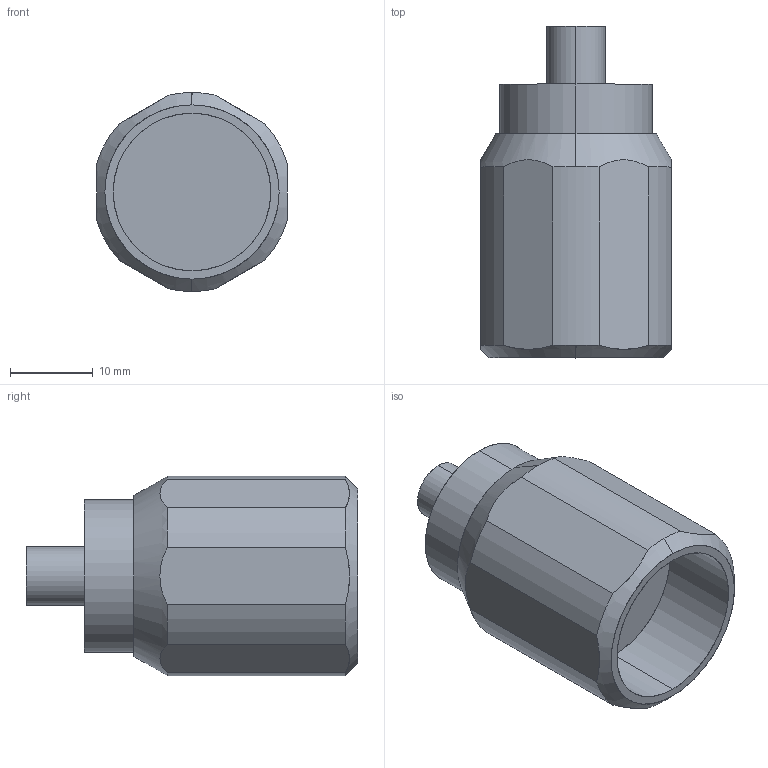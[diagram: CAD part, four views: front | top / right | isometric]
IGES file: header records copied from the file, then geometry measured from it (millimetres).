
Start section: SolidWorks IGES file using analytic representation for surfaces
Global section: file name: G:\Silvent\Ritningar\Övrigt\IGES\Silvent 707C.IGS; native system: SolidWorks 2011; preprocessor: SolidWorks 2011; author: silvrati; date: 111206.154526; units: millimetre
Bounding box: 23 x 40 x 24 mm (x, y, z)
Surface area: 3802.6 mm2 (no closed solid volume)
Topology: 0 solids, 0 shells, 28 faces, 402 edges, 402 vertices
Faces by surface type: revolution 17, bspline 11
